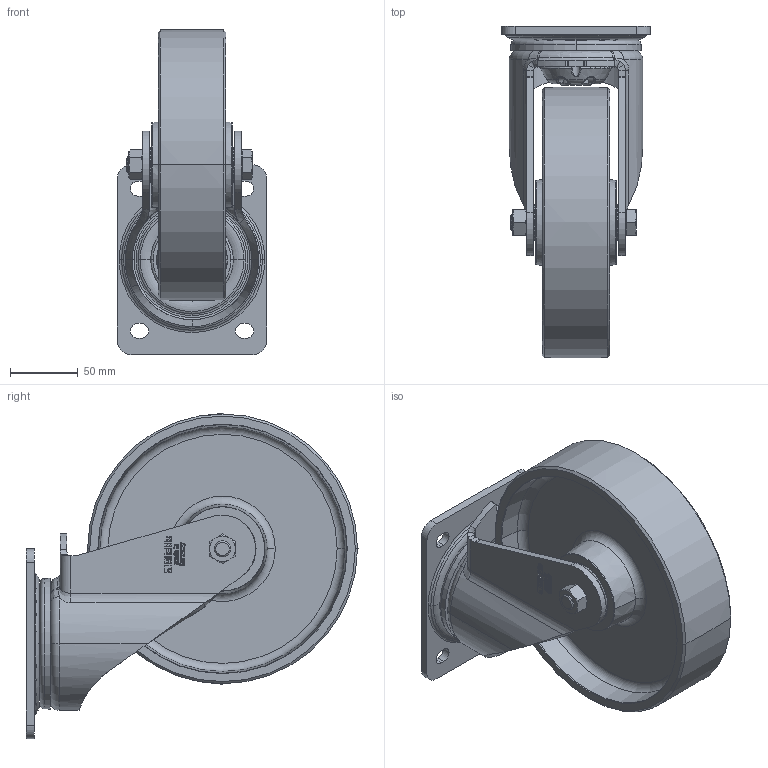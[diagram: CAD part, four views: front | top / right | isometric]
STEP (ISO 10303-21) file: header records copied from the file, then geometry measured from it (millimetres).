
FILE_DESCRIPTION (( 'STEP AP214' ), '1' );
FILE_NAME ('LH-G_200K_048926-214.step', '2021-12-30T11:15:07', ( '' ), ( '' ), 'SwSTEP 2.0', 'SolidWorks 2018', '' );
FILE_SCHEMA (( 'AUTOMOTIVE_DESIGN' ));
Length unit declared in the file: millimetre
Products named in the file (5): GH-LH_175-250_GH-LH-200x60-03_20x60; G_200_20K_G16_3D; LH-G_200K_048926-214; GH-LH-200x60-03_20x60_G16_3D; G_3D_G16_G_200_20K_033498
Assembly tree (4 placements, depth 3):
  LH-G_200K_048926-214
    G_3D_G16_G_200_20K_033498
      G_200_20K_G16_3D
    GH-LH_175-250_GH-LH-200x60-03_20x60
      GH-LH-200x60-03_20x60_G16_3D
Bounding box: 110 x 244.95 x 239.95 mm (x, y, z)
Volume: 985129.9 mm3; surface area: 255988 mm2
Topology: 2 solids, 5 shells, 1602 faces, 4136 edges, 2669 vertices
Faces by surface type: plane 661, bspline 573, torus 148, cylinder 134, cone 82, sphere 4
Entity records: 63376 total; most frequent: CARTESIAN_POINT 22892, ORIENTED_EDGE 8254, DIRECTION 5597, EDGE_CURVE 4127, VERTEX_POINT 2666, VECTOR 2179, LINE 2179, EDGE_LOOP 1751
